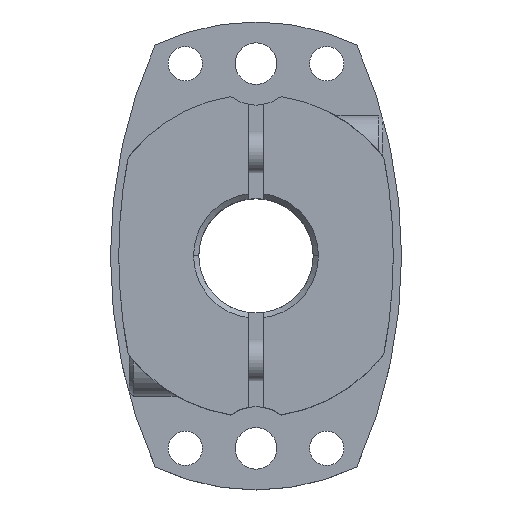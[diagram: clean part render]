
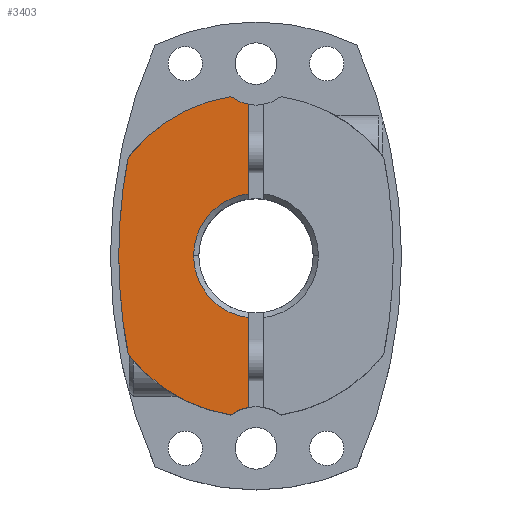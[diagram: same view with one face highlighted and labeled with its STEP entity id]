
A CAD part, top view. The second image highlights one B-rep face of the part: STEP entity #3403.
In plain terms, the highlighted planar face has unit normal (0, 0, 1).
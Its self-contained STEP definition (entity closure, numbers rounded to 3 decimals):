
#412=CARTESIAN_POINT('',(-6.,0.,14.5));
#413=VERTEX_POINT('',#412);
#421=CARTESIAN_POINT('',(-0.75,5.953,14.5));
#422=VERTEX_POINT('',#421);
#436=CARTESIAN_POINT('',(0.,0.0,14.5));
#437=DIRECTION('',(0.0,0.0,1.0));
#438=DIRECTION('',(-1.0,0.0,0.0));
#439=AXIS2_PLACEMENT_3D('',#436,#437,#438);
#440=CIRCLE('',#439,6.0);
#441=EDGE_CURVE('',#422,#413,#440,.T.);
#451=CARTESIAN_POINT('',(-13.2,0.,14.5));
#452=VERTEX_POINT('',#451);
#461=CARTESIAN_POINT('',(-12.283,9.454,14.5));
#462=VERTEX_POINT('',#461);
#463=CARTESIAN_POINT('',(36.,0.,14.5));
#464=DIRECTION('',(0.0,0.0,-1.0));
#465=DIRECTION('',(1.0,0.0,0.0));
#466=AXIS2_PLACEMENT_3D('',#463,#464,#465);
#467=CIRCLE('',#466,49.2);
#468=EDGE_CURVE('',#452,#462,#467,.T.);
#1918=CARTESIAN_POINT('',(-2.414,-15.311,14.5));
#1919=VERTEX_POINT('',#1918);
#1926=CARTESIAN_POINT('',(-12.283,-9.454,14.5));
#1927=VERTEX_POINT('',#1926);
#1928=CARTESIAN_POINT('',(0.,0.,14.5));
#1929=DIRECTION('',(0.0,0.0,-1.0));
#1930=DIRECTION('',(1.0,0.0,0.0));
#1931=AXIS2_PLACEMENT_3D('',#1928,#1929,#1930);
#1932=CIRCLE('',#1931,15.5);
#1933=EDGE_CURVE('',#1919,#1927,#1932,.T.);
#2614=CARTESIAN_POINT('',(36.,0.,14.5));
#2615=DIRECTION('',(0.0,0.0,-1.0));
#2616=DIRECTION('',(1.0,0.0,0.0));
#2617=AXIS2_PLACEMENT_3D('',#2614,#2615,#2616);
#2618=CIRCLE('',#2617,49.2);
#2619=EDGE_CURVE('',#1927,#452,#2618,.T.);
#2629=CARTESIAN_POINT('',(-0.75,-14.571,14.5));
#2630=VERTEX_POINT('',#2629);
#2639=CARTESIAN_POINT('',(0.,-18.5,14.5));
#2640=DIRECTION('',(0.0,0.0,-1.0));
#2641=DIRECTION('',(1.0,0.0,0.0));
#2642=AXIS2_PLACEMENT_3D('',#2639,#2640,#2641);
#2643=CIRCLE('',#2642,4.0);
#2644=EDGE_CURVE('',#1919,#2630,#2643,.T.);
#2823=CARTESIAN_POINT('',(-0.75,14.571,14.5));
#2824=VERTEX_POINT('',#2823);
#2840=CARTESIAN_POINT('',(-2.414,15.311,14.5));
#2841=VERTEX_POINT('',#2840);
#2848=CARTESIAN_POINT('',(0.,18.5,14.5));
#2849=DIRECTION('',(0.0,0.0,-1.0));
#2850=DIRECTION('',(1.0,0.0,0.0));
#2851=AXIS2_PLACEMENT_3D('',#2848,#2849,#2850);
#2852=CIRCLE('',#2851,4.0);
#2853=EDGE_CURVE('',#2824,#2841,#2852,.T.);
#2967=CARTESIAN_POINT('',(-0.75,-5.953,14.5));
#2968=VERTEX_POINT('',#2967);
#2982=CARTESIAN_POINT('',(-0.75,-14.571,14.5));
#2983=DIRECTION('',(0.0,1.0,0.0));
#2984=VECTOR('',#2983,8.618);
#2985=LINE('',#2982,#2984);
#2986=EDGE_CURVE('',#2630,#2968,#2985,.T.);
#3029=CARTESIAN_POINT('',(-0.75,5.953,14.5));
#3030=DIRECTION('',(0.0,1.0,0.0));
#3031=VECTOR('',#3030,8.618);
#3032=LINE('',#3029,#3031);
#3033=EDGE_CURVE('',#422,#2824,#3032,.T.);
#3341=CARTESIAN_POINT('',(0.,0.,14.5));
#3342=DIRECTION('',(0.0,0.0,-1.0));
#3343=DIRECTION('',(1.0,0.0,0.0));
#3344=AXIS2_PLACEMENT_3D('',#3341,#3342,#3343);
#3345=CIRCLE('',#3344,15.5);
#3346=EDGE_CURVE('',#462,#2841,#3345,.T.);
#3380=CARTESIAN_POINT('',(0.,0.,14.5));
#3381=DIRECTION('',(0.0,0.0,1.0));
#3382=DIRECTION('',(1.0,0.0,0.0));
#3383=AXIS2_PLACEMENT_3D('',#3380,#3381,#3382);
#3384=PLANE('',#3383);
#3385=ORIENTED_EDGE('',*,*,#2644,.T.);
#3386=ORIENTED_EDGE('',*,*,#2986,.T.);
#3387=CARTESIAN_POINT('',(0.,0.0,14.5));
#3388=DIRECTION('',(0.0,0.0,1.0));
#3389=DIRECTION('',(-1.0,0.0,0.0));
#3390=AXIS2_PLACEMENT_3D('',#3387,#3388,#3389);
#3391=CIRCLE('',#3390,6.0);
#3392=EDGE_CURVE('',#413,#2968,#3391,.T.);
#3393=ORIENTED_EDGE('',*,*,#3392,.F.);
#3394=ORIENTED_EDGE('',*,*,#441,.F.);
#3395=ORIENTED_EDGE('',*,*,#3033,.T.);
#3396=ORIENTED_EDGE('',*,*,#2853,.T.);
#3397=ORIENTED_EDGE('',*,*,#3346,.F.);
#3398=ORIENTED_EDGE('',*,*,#468,.F.);
#3399=ORIENTED_EDGE('',*,*,#2619,.F.);
#3400=ORIENTED_EDGE('',*,*,#1933,.F.);
#3401=EDGE_LOOP('',(#3385,#3386,#3393,#3394,#3395,#3396,#3397,#3398,#3399,#3400));
#3402=FACE_OUTER_BOUND('',#3401,.T.);
#3403=ADVANCED_FACE('',(#3402),#3384,.T.);
